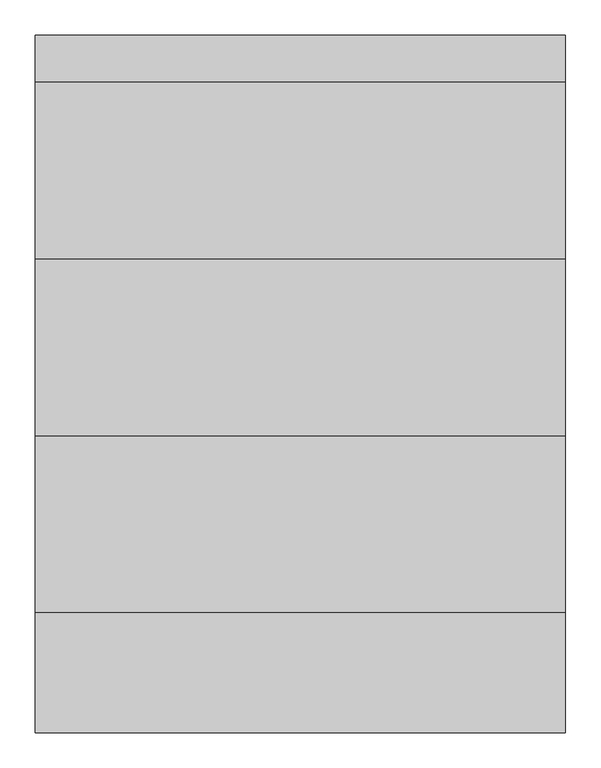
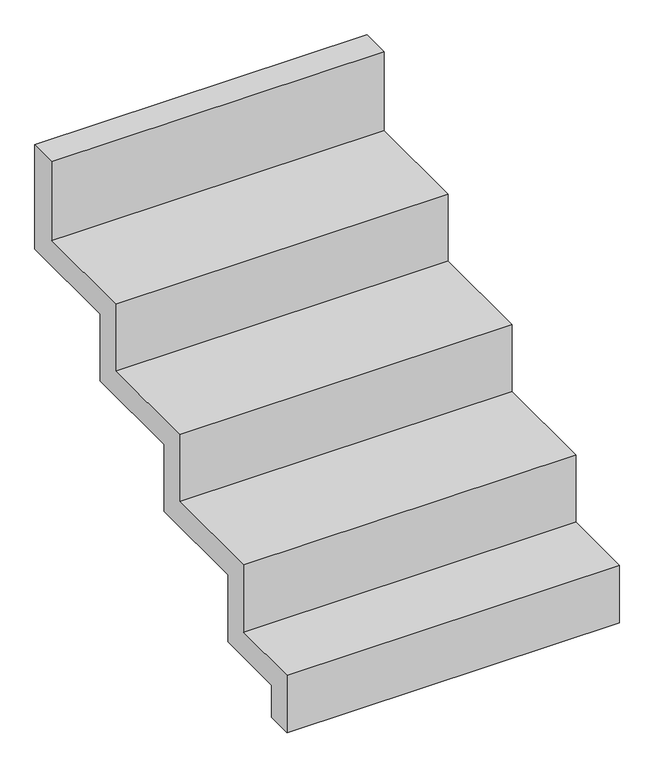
"""IFC4 building model written with IfcOpenShell, lengths in millimetres: proxy geometry, Л1 : Л-2."""

from ifc_helpers import new_model, si_unit, origin, place, context, project, spatial, faceted_brep, source, transform, mapped, element, save


def generic_models_8112f402(model_context):
    return source(origin(), model_context, "Body", "Brep", [
        faceted_brep([(6355.0633878, 20254.2232208, 800.0), (6355.0633878, 20254.2232208, 740.0), (6355.0633878, 20254.2232208, 611.8070158), (6355.0633878, 20004.2232208, 611.8070158), (6355.0633878, 20004.2232208, 451.8070158), (6355.0633878, 19754.2232208, 451.8070158), (6355.0633878, 19754.2232208, 291.8070158), (6355.0633878, 19504.2232208, 291.8070158), (6355.0633878, 19504.2232208, 131.8070158), (6355.0633878, 19334.2232208, 131.8070158), (6355.0633878, 19334.2232208, -5.0), (6355.0633878, 19394.2232208, -5.0), (6355.0633878, 19394.2232208, 71.8070158), (6355.0633878, 19564.2232208, 71.8070158), (6355.0633878, 19564.2232208, 231.8070158), (6355.0633878, 19814.2232208, 231.8070158), (6355.0633878, 19814.2232208, 391.8070158), (6355.0633878, 20064.2232208, 391.8070158), (6355.0633878, 20064.2232208, 551.8070158), (6355.0633878, 20320.0001181, 551.8070158), (6355.0633878, 20320.0001181, 740.0), (6355.0633878, 20320.0001181, 800.0), (5605.0633878, 20254.2232208, 800.0), (5605.0633878, 20320.0001181, 800.0), (5605.0633878, 20320.0001181, 551.8070158), (5605.0633878, 20064.2232208, 551.8070158), (5605.0633878, 20064.2232208, 391.8070158), (5605.0633878, 19814.2232208, 391.8070158), (5605.0633878, 19814.2232208, 231.8070158), (5605.0633878, 19564.2232208, 231.8070158), (5605.0633878, 19564.2232208, 71.8070158), (5605.0633878, 19394.2232208, 71.8070158), (5605.0633878, 19394.2232208, -5.0), (5605.0633878, 19334.2232208, -5.0), (5605.0633878, 19334.2232208, 131.8070158), (5605.0633878, 19504.2232208, 131.8070158), (5605.0633878, 19504.2232208, 291.8070158), (5605.0633878, 19754.2232208, 291.8070158), (5605.0633878, 19754.2232208, 451.8070158), (5605.0633878, 20004.2232208, 451.8070158), (5605.0633878, 20004.2232208, 611.8070158), (5605.0633878, 20254.2232208, 611.8070158)], [[[0, 1, 2, 3, 4, 5, 6, 7, 8, 9, 10, 11, 12, 13, 14, 15, 16, 17, 18, 19, 20, 21]], [[22, 23, 24, 25, 26, 27, 28, 29, 30, 31, 32, 33, 34, 35, 36, 37, 38, 39, 40, 41]], [[2, 1, 0, 22, 41]], [[3, 2, 41, 40]], [[4, 3, 40, 39]], [[5, 4, 39, 38]], [[6, 5, 38, 37]], [[7, 6, 37, 36]], [[8, 7, 36, 35]], [[9, 8, 35, 34]], [[9, 34, 33, 10]], [[31, 12, 11, 32]], [[13, 12, 31, 30]], [[14, 13, 30, 29]], [[15, 14, 29, 28]], [[16, 15, 28, 27]], [[17, 16, 27, 26]], [[18, 17, 26, 25]], [[19, 18, 25, 24]], [[21, 20, 19, 24, 23]], [[0, 21, 23, 22]], [[11, 10, 33, 32]]]),
    ])


if __name__ == "__main__":
    model = new_model("IFC4")
    model_context = context("Model", 3, world=origin())
    ifc_project = project(units=[si_unit("LENGTHUNIT", "METRE", prefix="MILLI")], contexts=[model_context])
    site = spatial("IfcSite", under=ifc_project)
    building = spatial("IfcBuilding", under=site)
    placement = place(None, origin())
    generic_models_shape = generic_models_8112f402(model_context)
    element("IfcBuildingElementProxy", 1, Name="Л1 : Л-2", ObjectType="Л1 : Л-2", at=placement, inside=building, context=model_context, shape_type="MappedRepresentation", body=[
        mapped(generic_models_shape, transform((0.0, 0.0, 0.0), x_axis=(1.0, 0.0, 0.0), y_axis=(0.0, 1.0, 0.0), z_axis=(0.0, 0.0, 1.0))),
    ])
    save(model, "model.ifc")
